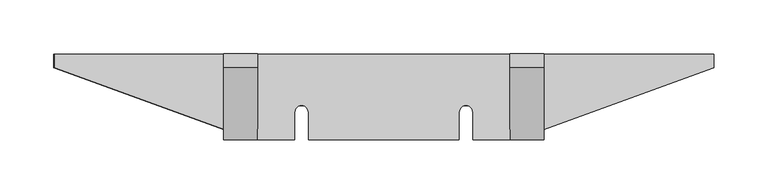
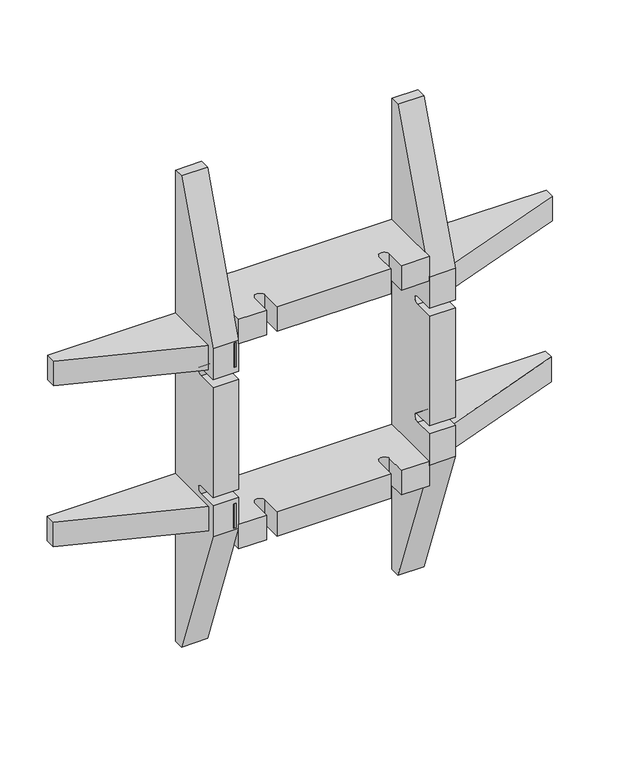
"""IFC4 building model written with IfcOpenShell, lengths in millimetres: proxy geometry, AERO^TABLE 2_H-QSQCB09."""

from ifc_helpers import new_model, si_unit, point, frame, frame_2d, origin, place, context, project, spatial, polyline, circle_curve, trimmed, segment, composite_curve, outline, extrude, source, transform, mapped, element, save


def generic_models_1611a3a9(model_context):
    return source(origin(), model_context, "Body", "SweptSolid", [
        extrude(outline(composite_curve([segment(polyline([(0.0, 375.840625), (25.4, 375.840625)]), True, "CONTINUOUS"), segment(trimmed(circle_curve(frame_2d((25.4, 381.0)), 5.159375), [point((25.4, 375.840625))], [point((25.4, 386.159375))], True, "CARTESIAN"), True, "CONTINUOUS"), segment(polyline([(25.4, 386.159375), (0.0, 386.159375), (0.0, 426.4119431), (66.675, 609.6), (79.375, 609.6), (79.375, 0.0), (66.675, 0.0), (0.0, 183.1880569), (0.0, 223.440625), (25.4, 223.440625)]), True, "CONTINUOUS"), segment(trimmed(circle_curve(frame_2d((25.4, 228.6)), 5.159375), [point((25.4, 223.440625))], [point((25.4, 233.759375))], True, "CARTESIAN"), True, "CONTINUOUS"), segment(polyline([(25.4, 233.759375), (0.0, 233.759375), (0.0, 375.840625)]), True, "CONTINUOUS")], self_intersect=False)), frame((233.3625, 0.0, 0.0), z_axis=(1.0, 0.0, 0.0), x_axis=(0.0, 1.0, 0.0)), (0.0, 0.0, 1.0), 31.75),
        extrude(outline(composite_curve([segment(polyline([(34.13125, 25.4), (34.13125, 0.0), (0.0, 0.0), (0.0, 79.375), (233.3625, 79.375), (233.3625, 0.0), (199.23125, 0.0), (199.23125, 25.4)]), True, "CONTINUOUS"), segment(trimmed(circle_curve(frame_2d((192.88125, 25.4)), 6.35), [point((199.23125, 25.4))], [point((186.53125, 25.4))], True, "CARTESIAN"), True, "CONTINUOUS"), segment(polyline([(186.53125, 25.4), (186.53125, 0.0), (46.83125, 0.0), (46.83125, 25.4)]), True, "CONTINUOUS"), segment(trimmed(circle_curve(frame_2d((40.48125, 25.4)), 6.35), [point((46.83125, 25.4))], [point((34.13125, 25.4))], True, "CARTESIAN"), True, "CONTINUOUS")], self_intersect=False)), frame((0.0, 0.0, 156.36875), z_axis=(0.0, 0.0, 1.0), x_axis=(1.0, 0.0, 0.0)), (0.0, 0.0, 1.0), 31.75),
        extrude(outline(polyline([(236.5375, 79.375), (422.275, 79.375), (422.275, 66.675), (239.0869431, 0.0), (236.5375, 0.0), (236.5375, 79.375)])), frame((0.0, 0.0, 392.90625), z_axis=(0.0, 0.0, 1.0), x_axis=(1.0, 0.0, 0.0)), (0.0, 0.0, 1.0), 31.75),
        extrude(outline(polyline([(-188.11875, 79.375), (-3.175, 79.375), (-3.175, 0.0), (-4.9306931, 0.0), (-188.11875, 66.675), (-188.11875, 79.375)])), frame((0.0, 0.0, 392.90625), z_axis=(0.0, 0.0, 1.0), x_axis=(1.0, 0.0, 0.0)), (0.0, 0.0, 1.0), 31.75),
        extrude(outline(polyline([(-188.9125, 79.375), (-3.175, 79.375), (-3.175, 0.0), (-5.7244431, 0.0), (-188.9125, 66.675), (-188.9125, 79.375)])), frame((0.0, 0.0, 184.94375), z_axis=(0.0, 0.0, 1.0), x_axis=(1.0, 0.0, 0.0)), (0.0, 0.0, 1.0), 31.75),
        extrude(outline(composite_curve([segment(polyline([(0.0, 79.375), (233.3625, 79.375), (233.3625, 0.0), (199.23125, 0.0), (199.23125, 25.4)]), True, "CONTINUOUS"), segment(trimmed(circle_curve(frame_2d((192.88125, 25.4)), 6.35), [point((199.23125, 25.4))], [point((186.53125, 25.4))], True, "CARTESIAN"), True, "CONTINUOUS"), segment(polyline([(186.53125, 25.4), (186.53125, 0.0), (46.83125, 0.0), (46.83125, 25.4)]), True, "CONTINUOUS"), segment(trimmed(circle_curve(frame_2d((40.48125, 25.4)), 6.35), [point((46.83125, 25.4))], [point((34.13125, 25.4))], True, "CARTESIAN"), True, "CONTINUOUS"), segment(polyline([(34.13125, 25.4), (34.13125, 0.0), (0.0, 0.0), (0.0, 79.375)]), True, "CONTINUOUS")], self_intersect=False)), frame((0.0, 0.0, 421.48125), z_axis=(0.0, 0.0, 1.0), x_axis=(1.0, 0.0, 0.0)), (0.0, 0.0, 1.0), 31.75),
        extrude(outline(polyline([(236.5375, 79.375), (421.48125, 79.375), (421.48125, 66.675), (238.2931931, 0.0), (236.5375, 0.0), (236.5375, 79.375)])), frame((0.0, 0.0, 184.94375), z_axis=(0.0, 0.0, 1.0), x_axis=(1.0, 0.0, 0.0)), (0.0, 0.0, 1.0), 31.75),
        extrude(outline(composite_curve([segment(polyline([(66.675, 0.0), (0.0, 183.1880569), (0.0, 223.440625), (25.4, 223.440625)]), True, "CONTINUOUS"), segment(trimmed(circle_curve(frame_2d((25.4, 228.6)), 5.159375), [point((25.4, 223.440625))], [point((25.4, 233.759375))], True, "CARTESIAN"), True, "CONTINUOUS"), segment(polyline([(25.4, 233.759375), (0.0, 233.759375), (0.0, 375.840625), (25.4, 375.840625)]), True, "CONTINUOUS"), segment(trimmed(circle_curve(frame_2d((25.4, 381.0)), 5.159375), [point((25.4, 375.840625))], [point((25.4, 386.159375))], True, "CARTESIAN"), True, "CONTINUOUS"), segment(polyline([(25.4, 386.159375), (0.0, 386.159375), (0.0, 426.4119431), (66.675, 609.6), (79.375, 609.6), (79.375, 0.0), (66.675, 0.0)]), True, "CONTINUOUS")], self_intersect=False)), frame((-31.75, 0.0, 0.0), z_axis=(1.0, 0.0, 0.0), x_axis=(0.0, 1.0, 0.0)), (0.0, 0.0, 1.0), 31.75),
    ])


if __name__ == "__main__":
    model = new_model("IFC4")
    model_context = context("Model", 3, world=origin())
    ifc_project = project(units=[si_unit("LENGTHUNIT", "METRE", prefix="MILLI")], contexts=[model_context])
    site = spatial("IfcSite", under=ifc_project)
    building = spatial("IfcBuilding", under=site)
    placement = place(None, origin())
    generic_models_shape = generic_models_1611a3a9(model_context)
    element("IfcBuildingElementProxy", 1, Name="AERO^TABLE 2_H-QSQCB09", ObjectType="AERO^TABLE 2_H-QSQCB09", at=placement, inside=building, context=model_context, shape_type="MappedRepresentation", body=[
        mapped(generic_models_shape, transform((0.0, 0.0, 0.0), x_axis=(1.0, 0.0, 0.0), y_axis=(0.0, 1.0, 0.0), z_axis=(0.0, 0.0, 1.0))),
    ])
    save(model, "model.ifc")
